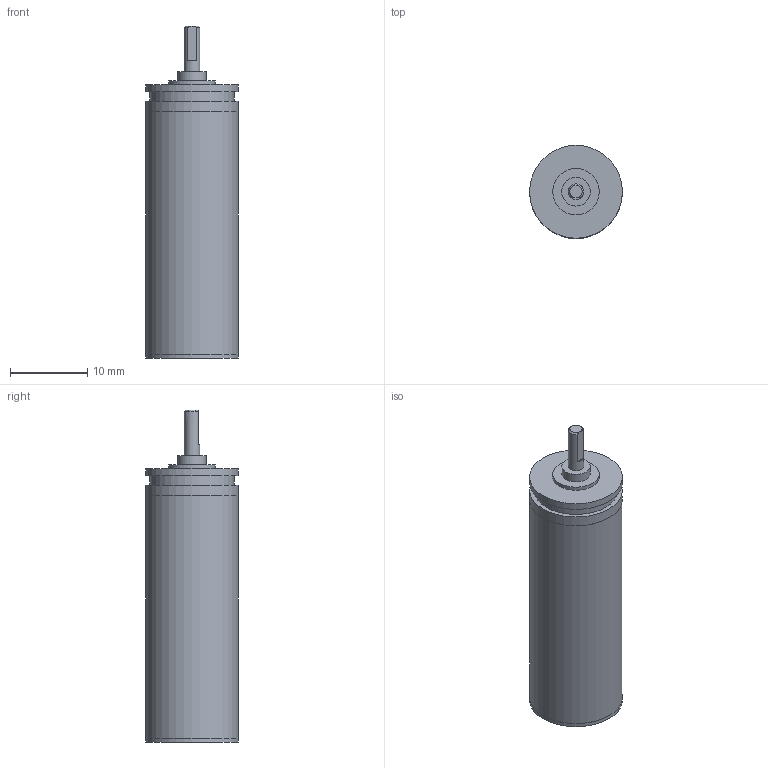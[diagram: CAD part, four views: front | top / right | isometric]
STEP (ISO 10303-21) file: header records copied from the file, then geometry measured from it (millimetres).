
FILE_DESCRIPTION(/* description */ (''),/* implementation_level */ '2;1');
FILE_NAME(/* name */ '12-3K_12.stp',/* time_stamp */ '2016-08-24T10:25:22+02:00',/* author */ ('DR. FRITZ FAULHABER GmbH & Co. KG'),/* organization */ ('DR. FRITZ FAULHABER GmbH & Co. KG'),/* preprocessor_version */ 'ST-DEVELOPER v16',/* originating_system */ 'SIEMENS PLM Software NX 10.0',/* authorisation */ '');
FILE_SCHEMA (('AUTOMOTIVE_DESIGN { 1 0 10303 214 3 1 1 1 }'));
Length unit declared in the file: millimetre
Products named in the file (1): H00000588_A
Bounding box: 12 x 12 x 42.9 mm (x, y, z)
Volume: 3941.7 mm3; surface area: 1719.1 mm2
Topology: 1 solids, 1 shells, 32 faces, 52 edges, 34 vertices
Faces by surface type: plane 16, cylinder 14, cone 2
Full cylindrical faces by diameter (mm): 2 x1, 2.48 x1, 2.6 x1, 3.7 x1, 5 x1, 6 x2, 10.88 x1, 11.99 x2, 12 x4
Entity records: 692 total; most frequent: DIRECTION 129, CARTESIAN_POINT 115, ORIENTED_EDGE 70, AXIS2_PLACEMENT_3D 63, EDGE_LOOP 59, FACE_BOUND 54, EDGE_CURVE 35, ADVANCED_FACE 32
